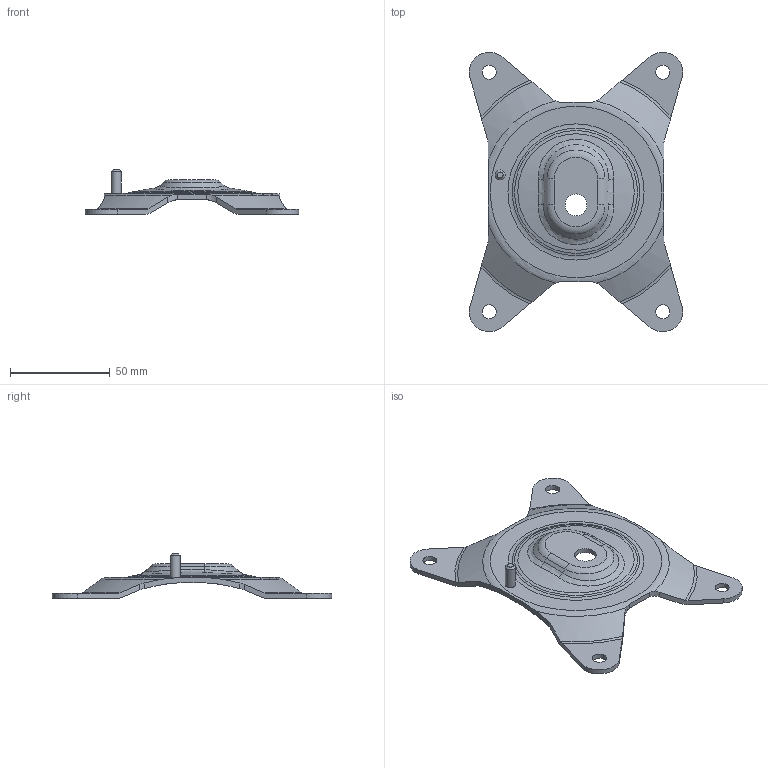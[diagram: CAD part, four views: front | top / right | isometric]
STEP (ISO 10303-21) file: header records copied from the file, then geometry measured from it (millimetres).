
FILE_DESCRIPTION(/* description */ (''),/* implementation_level */ '2;1');
FILE_NAME(/* name */ '0265Y40T56_001.stp',/* time_stamp */ '2011-07-14T09:33:45+02:00',/* author */ (''),/* organization */ (''),/* preprocessor_version */ 'ST-DEVELOPER v11',/* originating_system */ 'SIEMENS UGS NX 6.0',/* authorisation */ '');
FILE_SCHEMA (('AUTOMOTIVE_DESIGN { 1 0 10303 214 1 1 1 1 }'));
Length unit declared in the file: millimetre
Products named in the file (1): mam24813b6ko
Bounding box: 106.96 x 140 x 22.5 mm (x, y, z)
Volume: 27949.6 mm3; surface area: 24024.2 mm2
Topology: 1 solids, 1 shells, 94 faces, 251 edges, 162 vertices
Faces by surface type: plane 29, cylinder 22, torus 18, cone 17, bspline 8
Full cylindrical faces by diameter (mm): 5 x1, 7 x4, 11 x1
Entity records: 3286 total; most frequent: CARTESIAN_POINT 1177, ORIENTED_EDGE 446, DIRECTION 388, EDGE_CURVE 223, AXIS2_PLACEMENT_3D 166, VERTEX_POINT 151, EDGE_LOOP 124, ADVANCED_FACE 94
